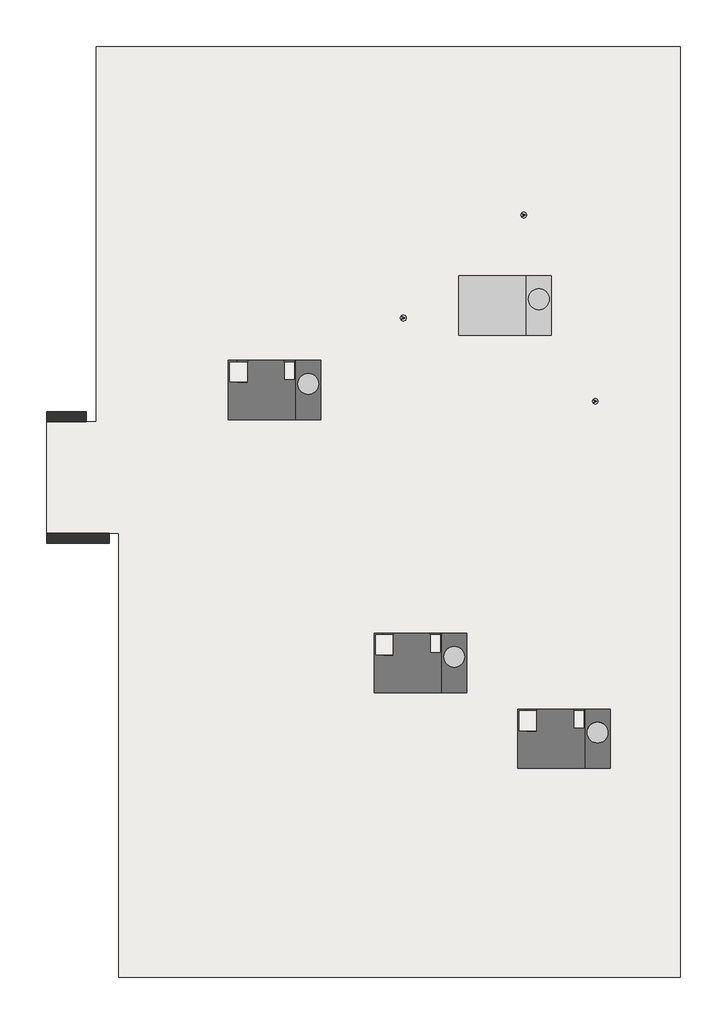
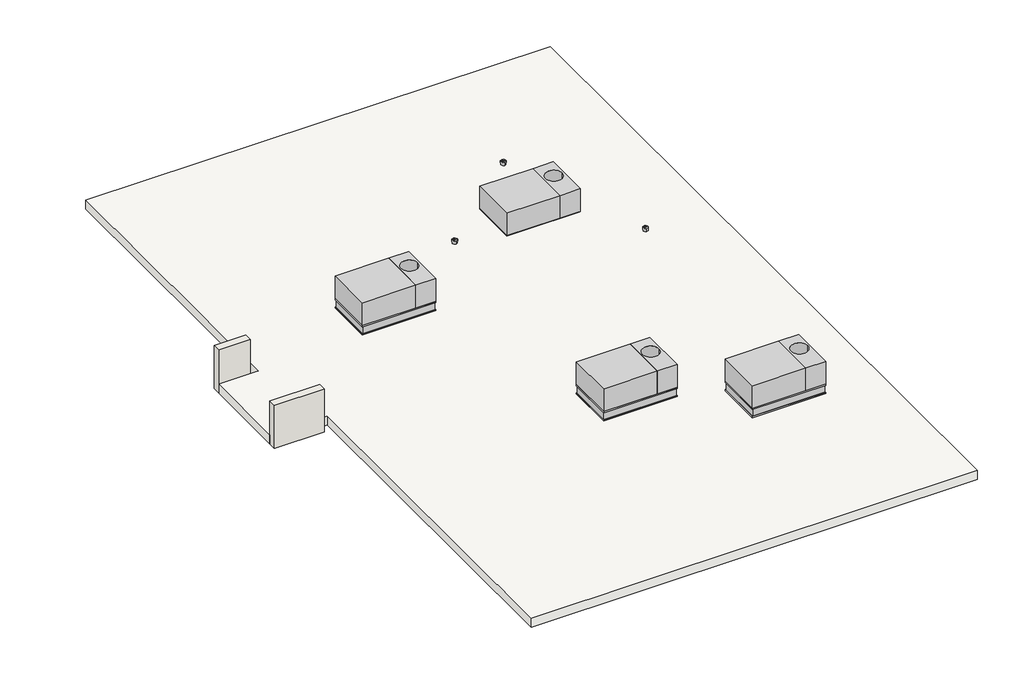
# One storey: 7 proxies, 2 walls, 1 roof.
"""IFC4 building model written with IfcOpenShell, lengths in millimetres."""

from ifc_helpers import new_model, si_unit, frame, origin, place, context, project, spatial, polyline, outline, extrude, transform, mapped, element, save
from components import roof_top_unit_default_2_9a5b938b, roof_vent_roof_vent_69e8556b

model = new_model("IFC4")

# Units and contexts
model_context = context("Model", 3, world=origin())
ifc_project = project(units=[si_unit("LENGTHUNIT", "METRE", prefix="MILLI")], contexts=[model_context])

# Site, building, storey
site = spatial("IfcSite", under=ifc_project)
building = spatial("IfcBuilding", under=site)
storey = spatial("IfcBuildingStorey", under=building, Name="U/S of Roof", Elevation=4699.0)

# Proxies
placement = place(None, origin())
roof_top_unit_default_2_shape = roof_top_unit_default_2_9a5b938b(model_context)
element("IfcBuildingElementProxy", 1, Name="Roof Top Unit : Default 2", ObjectType="Roof Top Unit : Default 2", at=placement, inside=storey, context=model_context, shape_type="MappedRepresentation", body=[
    mapped(roof_top_unit_default_2_shape, transform((-1977.2715942, 3146.2499204, 5003.8), x_axis=(1.0, 0.0, 0.0), y_axis=(0.0, 1.0, 0.0), z_axis=(0.0, 0.0, 1.0))),
])
element("IfcBuildingElementProxy", 2, Name="Roof Top Unit : Default 2", ObjectType="Roof Top Unit : Default 2", at=placement, inside=storey, context=model_context, shape_type="MappedRepresentation", body=[
    mapped(roof_top_unit_default_2_shape, transform((3661.5284058, 5216.3499204, 4699.0), x_axis=(1.0, 0.0, 0.0), y_axis=(0.0, 1.0, 0.0), z_axis=(0.0, 0.0, 1.0))),
])
element("IfcBuildingElementProxy", 3, Name="Roof Top Unit : Default 2", ObjectType="Roof Top Unit : Default 2", at=placement, inside=storey, context=model_context, shape_type="MappedRepresentation", body=[
    mapped(roof_top_unit_default_2_shape, transform((1591.4284058, -3527.6000796, 5003.8), x_axis=(1.0, 0.0, 0.0), y_axis=(0.0, 1.0, 0.0), z_axis=(0.0, 0.0, 1.0))),
])
element("IfcBuildingElementProxy", 4, Name="Roof Top Unit : Default 2", ObjectType="Roof Top Unit : Default 2", at=placement, inside=storey, context=model_context, shape_type="MappedRepresentation", body=[
    mapped(roof_top_unit_default_2_shape, transform((5096.6284058, -5381.8000796, 5003.8), x_axis=(1.0, 0.0, 0.0), y_axis=(0.0, 1.0, 0.0), z_axis=(0.0, 0.0, 1.0))),
])
roof_vent_roof_vent_shape = roof_vent_roof_vent_69e8556b(model_context)
element("IfcBuildingElementProxy", 5, Name="Roof Vent : Roof Vent", ObjectType="Roof Vent : Roof Vent", at=placement, inside=storey, context=model_context, shape_type="MappedRepresentation", body=[
    mapped(roof_vent_roof_vent_shape, transform((1665.9333864, 4911.5499204, 5003.8), x_axis=(0.0, 1.0, 0.0), y_axis=(-1.0, 0.0, 0.0), z_axis=(0.0, 0.0, 1.0))),
])
element("IfcBuildingElementProxy", 6, Name="Roof Vent : Roof Vent", ObjectType="Roof Vent : Roof Vent", at=placement, inside=storey, context=model_context, shape_type="MappedRepresentation", body=[
    mapped(roof_vent_roof_vent_shape, transform((6358.5833864, 2873.1999204, 5003.8), x_axis=(0.0, 1.0, 0.0), y_axis=(-1.0, 0.0, 0.0), z_axis=(0.0, 0.0, 1.0))),
])
element("IfcBuildingElementProxy", 7, Name="Roof Vent : Roof Vent", ObjectType="Roof Vent : Roof Vent", at=placement, inside=storey, context=model_context, shape_type="MappedRepresentation", body=[
    mapped(roof_vent_roof_vent_shape, transform((4610.8945701, 7426.0849443, 5003.8), x_axis=(0.0, 1.0, 0.0), y_axis=(-1.0, 0.0, 0.0), z_axis=(0.0, 0.0, 1.0))),
])

# Roof
element("IfcRoof", 8, ObjectType="Planitar Flat Roof - 11.5\"", at=placement, inside=storey, context=model_context, shape_type="SweptSolid", body=[
    extrude(outline(polyline([(-5846.1166136, 11547.2999204), (8435.0333864, 11547.2999204), (8435.0333864, -11216.9312018), (-5287.3166136, -11216.9312018), (-5287.3166136, -352.6000796), (-7058.9666136, -352.6000796), (-7058.9666136, 2377.8999204), (-5846.1166136, 2377.8999204), (-5846.1166136, 11547.2999204)])), frame((0.0, 0.0, 4699.0), z_axis=(0.0, 0.0, 1.0), x_axis=(1.0, 0.0, 0.0)), (0.0, 0.0, 1.0), 292.1),
])

# Walls
element("IfcWall", 9, ObjectType="Planitar - Generic 9 1/2\"", at=placement, inside=storey, context=model_context, shape_type="SweptSolid", body=[
    extrude(outline(polyline([(-7058.9666136, -352.6000796), (-5528.6166136, -352.6000796), (-5528.6166136, -593.9000796), (-7058.9666136, -593.9000796), (-7058.9666136, -352.6000796)])), frame((0.0, 0.0, 4699.0), z_axis=(0.0, 0.0, 1.0), x_axis=(1.0, 0.0, 0.0)), (0.0, 0.0, 1.0), 1397.0),
])
element("IfcWall", 10, ObjectType="Planitar - Generic 9 1/2\"", at=placement, inside=storey, context=model_context, shape_type="SweptSolid", body=[
    extrude(outline(polyline([(-6087.4166136, 2377.8999204), (-7058.9666136, 2377.8999204), (-7058.9666136, 2619.1999204), (-6087.4166136, 2619.1999204), (-6087.4166136, 2377.8999204)])), frame((0.0, 0.0, 4699.0), z_axis=(0.0, 0.0, 1.0), x_axis=(1.0, 0.0, 0.0)), (0.0, 0.0, 1.0), 1397.0),
])

save(model, "model.ifc")
